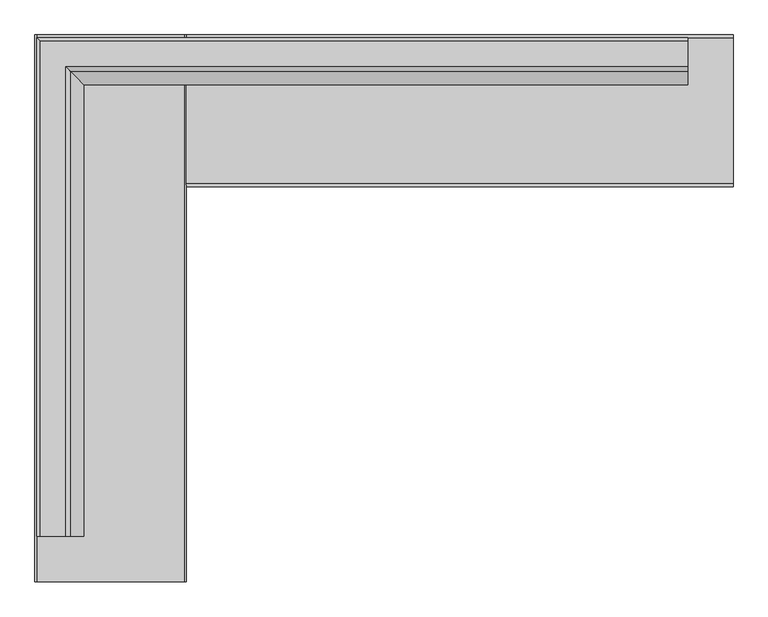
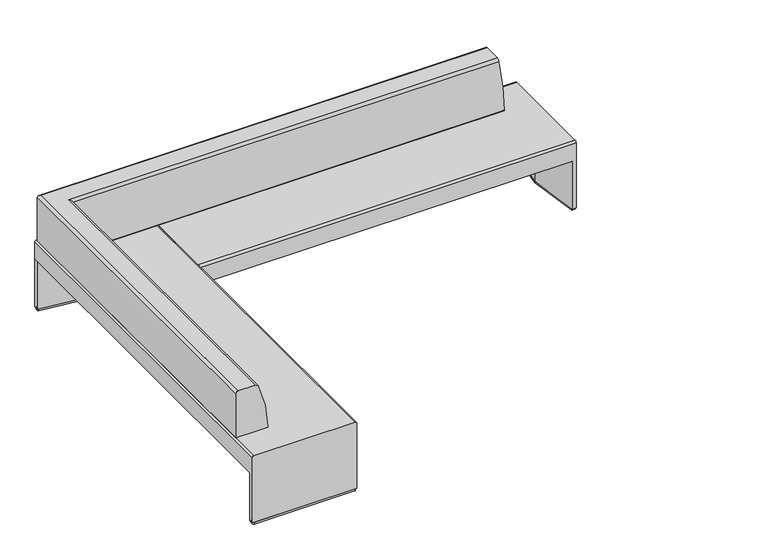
"""IFC4 building model written with IfcOpenShell, lengths in millimetres: furniture geometry, Coalesse_AM_Seating_Bench_Together_LeftCorner : 8in Back Offset - 96.5D x 123.25W."""

from ifc_helpers import new_model, si_unit, point, frame, frame_2d, origin, origin_with_axes, place, context, project, spatial, polyline, circle_curve, ellipse_curve, trimmed, segment, composite_curve, outline, extrude, source, transform, mapped, element, save
from ifc_brep_helpers import plane_surface, cylinder_surface, advanced_brep


def furniture_73e455b3(model_context):
    return source(origin(), model_context, "Body", "SolidModel", [
        extrude(outline(composite_curve([segment(polyline([(2381.1760341, 342.7173042), (2424.8994541, 668.3404046)]), True, "CONTINUOUS"), segment(trimmed(circle_curve(frame_2d((2431.8678665, 667.4047129)), 7.0309522), [point((2424.8994541, 668.3404046))], [point((2431.8621236, 674.4356628))], False, "CARTESIAN"), True, "CONTINUOUS"), segment(polyline([(2431.8621236, 674.4356628), (2444.385141, 674.4458915)]), True, "CONTINUOUS"), segment(trimmed(circle_curve(frame_2d((2444.3903277, 668.0958937)), 6.35), [point((2444.385141, 674.4458915))], [point((2450.7403256, 668.1010803))], False, "CARTESIAN"), True, "CONTINUOUS"), segment(polyline([(2450.7403256, 668.1010803), (2451.2758418, 12.4700002)]), True, "CONTINUOUS"), segment(trimmed(circle_curve(frame_2d((2444.9258439, 12.4648135)), 6.35), [point((2451.2758418, 12.4700002))], [point((2444.9310305, 6.1148157))], False, "CARTESIAN"), True, "CONTINUOUS"), segment(polyline([(2444.9310305, 6.1148157), (2432.4737657, 6.1046406)]), True, "CONTINUOUS"), segment(trimmed(circle_curve(frame_2d((2432.4685791, 12.4546385)), 6.35), [point((2432.4737657, 6.1046406))], [point((2426.1764214, 11.5995062))], False, "CARTESIAN"), True, "CONTINUOUS"), segment(polyline([(2426.1764214, 11.5995062), (2381.1760341, 342.7173042)]), True, "CONTINUOUS")], self_intersect=False)), origin_with_axes(), (0.0, 0.0, 1.0), 12.7976677),
        extrude(outline(composite_curve([segment(polyline([(-342.242834, 610.6565573), (-667.8301127, 654.6459299)]), True, "CONTINUOUS"), segment(trimmed(circle_curve(frame_2d((-666.8887296, 661.6135757)), 7.0309522), [point((-667.8301127, 654.6459299))], [point((-673.9196818, 661.6135757))], False, "CARTESIAN"), True, "CONTINUOUS"), segment(polyline([(-673.9196818, 661.6135757), (-673.9196818, 674.1365973)]), True, "CONTINUOUS"), segment(trimmed(circle_curve(frame_2d((-667.5696818, 674.1365973)), 6.35), [point((-673.9196818, 674.1365973))], [point((-667.5696818, 680.4865973))], False, "CARTESIAN"), True, "CONTINUOUS"), segment(polyline([(-667.5696818, 680.4865973), (-11.938383, 680.4865973)]), True, "CONTINUOUS"), segment(trimmed(circle_curve(frame_2d((-11.938383, 674.1365973)), 6.35), [point((-11.938383, 680.4865973))], [point((-5.588383, 674.1365973))], False, "CARTESIAN"), True, "CONTINUOUS"), segment(polyline([(-5.588383, 674.1365973), (-5.588383, 661.6793283)]), True, "CONTINUOUS"), segment(trimmed(circle_curve(frame_2d((-11.938383, 661.6793283)), 6.35), [point((-5.588383, 661.6793283))], [point((-11.0883904, 655.3864742))], False, "CARTESIAN"), True, "CONTINUOUS"), segment(polyline([(-11.0883904, 655.3864742), (-342.242834, 610.6565573)]), True, "CONTINUOUS")], self_intersect=False)), origin_with_axes(), (0.0, 0.0, 1.0), 12.7976677),
        extrude(outline(composite_curve([segment(polyline([(-342.242834, -1700.1204812), (-11.0883904, -1744.8503981)]), True, "CONTINUOUS"), segment(trimmed(circle_curve(frame_2d((-11.938383, -1751.1432522)), 6.35), [point((-11.0883904, -1744.8503981))], [point((-5.588383, -1751.1432522))], False, "CARTESIAN"), True, "CONTINUOUS"), segment(polyline([(-5.588383, -1751.1432522), (-5.588383, -1763.6005212)]), True, "CONTINUOUS"), segment(trimmed(circle_curve(frame_2d((-11.938383, -1763.6005212)), 6.35), [point((-5.588383, -1763.6005212))], [point((-11.938383, -1769.9505212))], False, "CARTESIAN"), True, "CONTINUOUS"), segment(polyline([(-11.938383, -1769.9505212), (-667.5696818, -1769.9505212)]), True, "CONTINUOUS"), segment(trimmed(circle_curve(frame_2d((-667.5696818, -1763.6005212)), 6.35), [point((-667.5696818, -1769.9505212))], [point((-673.9196818, -1763.6005212))], False, "CARTESIAN"), True, "CONTINUOUS"), segment(polyline([(-673.9196818, -1763.6005212), (-673.9196818, -1751.0774996)]), True, "CONTINUOUS"), segment(trimmed(circle_curve(frame_2d((-666.8887296, -1751.0774996)), 7.0309522), [point((-673.9196818, -1751.0774996))], [point((-667.8301127, -1744.1098538))], False, "CARTESIAN"), True, "CONTINUOUS"), segment(polyline([(-667.8301127, -1744.1098538), (-342.242834, -1700.1204812)]), True, "CONTINUOUS")], self_intersect=False)), origin_with_axes(), (0.0, 0.0, 1.0), 12.7976677),
        advanced_brep(
        [(2451.2283223, 12.7, 471.2287949), (2451.2283223, 0.0, 458.5287949), (2451.2283223, 0.0, 12.7976677), (2451.2283223, 680.4865973, 12.7976677), (2451.2283223, 680.4865973, 458.5287949), (2451.2283223, 667.7865973, 471.2287949), (0.0, 12.7, 471.2287949), (0.0, 667.7865973, 471.2287949), (0.0, 680.4865973, 458.5287949), (0.0, 680.4865973, 343.3718099), (0.0, 0.0, 343.3718099), (0.0, 0.0, 458.5287949), (2425.0526241, 0.0, 343.3718099), (2425.0515424, 0.0, 12.7976677), (2425.3585944, 680.4865973, 343.3718099), (2380.7200419, 337.8527218, 343.3718099), (2425.3596556, 680.4865973, 12.7976677), (2380.7200419, 337.8527218, 12.7976677)],
        [
            (0, 1, circle_curve(frame((2451.2283223, 12.7, 458.5287949), z_axis=(1.0, 0.0, 0.0), x_axis=(0.0, -1.0, 0.0)), 12.7)),
            (1, 2),
            (2, 3),
            (3, 4),
            (4, 5, circle_curve(frame((2451.2283223, 667.7865973, 458.5287949), z_axis=(1.0, 0.0, 0.0), x_axis=(0.0, -1.0, 0.0)), 12.7)),
            (5, 0),
            (6, 7),
            (7, 8, circle_curve(frame((0.0, 667.7865973, 458.5287949), z_axis=(-1.0, 0.0, 0.0), x_axis=(0.0, -1.0, 0.0)), 12.7)),
            (8, 9),
            (9, 10),
            (10, 11),
            (11, 6, circle_curve(frame((0.0, 12.7, 458.5287949), z_axis=(-1.0, 0.0, 0.0), x_axis=(0.0, -1.0, 0.0)), 12.7)),
            (0, 6),
            (11, 1),
            (10, 12),
            (12, 13),
            (13, 2),
            (9, 14),
            (14, 15),
            (15, 12),
            (3, 16),
            (16, 14),
            (8, 4),
            (7, 5),
            (17, 16),
            (13, 17),
            (15, 17),
        ],
        [
            plane_surface(frame((2451.2283223, 0.0, 458.5287949), z_axis=(1.0, 0.0, 0.0), x_axis=(0.0, 0.0, -1.0))),
            plane_surface(frame((0.0, 0.0, 458.5287949), z_axis=(-1.0, 0.0, 0.0), x_axis=(0.0, 0.0, 1.0))),
            cylinder_surface(frame((0.0, 12.7, 458.5287949), z_axis=(1.0, 0.0, 0.0), x_axis=(0.0, -1.0, 0.0)), 12.7),
            plane_surface(frame((2451.2283223, 0.0, 458.5287949), z_axis=(0.0, -1.0, 0.0), x_axis=(-1.0, 0.0, 0.0))),
            plane_surface(frame((2451.2283223, 0.0, 343.3718099), z_axis=(0.0, 0.0, -1.0), x_axis=(-1.0, 0.0, 0.0))),
            plane_surface(frame((2451.2283223, 680.4865973, 343.3718099), z_axis=(0.0, 1.0, 0.0), x_axis=(-1.0, 0.0, 0.0))),
            cylinder_surface(frame((0.0, 667.7865973, 458.5287949), z_axis=(1.0, 0.0, 0.0), x_axis=(0.0, -1.0, 0.0)), 12.7),
            plane_surface(frame((2451.2283223, 667.7865973, 471.2287949), z_axis=(0.0, 0.0, 1.0), x_axis=(-1.0, 0.0, 0.0))),
            plane_surface(frame((2380.7200419, 337.8527218, 12.7976677), z_axis=(0.0, 0.0, -1.0), x_axis=(-0.13010336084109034, 0.9915004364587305, 0.0))),
            plane_surface(frame((2380.7200419, 337.8527218, 343.3718099), z_axis=(-0.9915004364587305, -0.13010336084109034, 0.0), x_axis=(0.0, 0.0, -1.0))),
            plane_surface(frame((2425.3596556, 680.4947435, 343.3718099), z_axis=(-0.9916200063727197, 0.1291888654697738, 0.0), x_axis=(0.0, 0.0, -1.0))),
        ],
        [
            (0, [[1, 2, 3, 4, 5, 6]]),
            (1, [[7, 8, 9, 10, 11, 12]]),
            (2, [[-1, 13, -12, 14]]),
            (3, [[-2, -14, -11, 15, 16, 17]]),
            (4, [[-10, 18, 19, 20, -15]]),
            (5, [[-4, 21, 22, -18, -9, 23]]),
            (6, [[-5, -23, -8, 24]]),
            (7, [[-6, -24, -7, -13]]),
            (8, [[25, -21, -3, -17, 26]]),
            (9, [[-26, -16, -20, 27]]),
            (10, [[-25, -27, -19, -22]]),
        ],
    ),
        advanced_brep(
        [(0.0, -1770.8336068, 462.8584293), (-8.3703656, -1770.8336068, 471.2287949), (-669.1616777, -1770.8336068, 471.2287949), (-679.3216777, -1770.8336068, 461.0687949), (-679.3216777, -1770.8336068, 12.7976677), (0.0, -1770.8336068, 12.7976677), (0.0, 680.2663932, 343.3718099), (-679.3216777, 680.2663932, 343.3718099), (-679.3216777, 680.2663932, 461.0687949), (-669.1616777, 680.2663932, 471.2287949), (-8.3703656, 680.2663932, 471.2287949), (0.0, 680.2663932, 462.8584293), (0.0, -1744.8418934, 12.7976677), (0.0, -1744.8418934, 343.3718099), (-679.3216777, -1744.8418934, 343.3718099), (-679.3216777, -1744.8418934, 12.7976677), (-337.6103648, -1700.4329621, 343.3718099), (-337.6103648, -1700.4329621, 12.7976677)],
        [
            (0, 1, circle_curve(frame((-8.3703656, -1770.8336068, 462.8584293), z_axis=(0.0, -1.0, 0.0), x_axis=(1.0, 0.0, 0.0)), 8.3703656)),
            (1, 2),
            (2, 3, circle_curve(frame((-669.1616777, -1770.8336068, 461.0687949), z_axis=(0.0, -1.0, 0.0), x_axis=(1.0, 0.0, 0.0)), 10.16)),
            (3, 4),
            (4, 5),
            (5, 0),
            (6, 7),
            (7, 8),
            (8, 9, circle_curve(frame((-669.1616777, 680.2663932, 461.0687949), z_axis=(0.0, 1.0, 0.0), x_axis=(1.0, 0.0, 0.0)), 10.16)),
            (9, 10),
            (10, 11, circle_curve(frame((-8.3703656, 680.2663932, 462.8584293), z_axis=(0.0, 1.0, 0.0), x_axis=(1.0, 0.0, 0.0)), 8.3703656)),
            (11, 6),
            (5, 12),
            (12, 13),
            (13, 6),
            (11, 0),
            (10, 1),
            (9, 2),
            (8, 3),
            (7, 14),
            (14, 15),
            (15, 4),
            (13, 16),
            (16, 14),
            (17, 12),
            (15, 17),
            (16, 17),
        ],
        [
            plane_surface(frame((0.0, -1770.8336068, 432.906134), z_axis=(0.0, -1.0, 0.0), x_axis=(0.0, 0.0, 1.0))),
            plane_surface(frame((0.0, 680.2663932, 432.906134), z_axis=(0.0, 1.0, 0.0), x_axis=(0.0, 0.0, -1.0))),
            plane_surface(frame((0.0, -1770.8336068, 343.3718099), z_axis=(1.0, 0.0, 0.0), x_axis=(0.0, 1.0, 0.0))),
            cylinder_surface(frame((-8.3703656, 680.2663932, 462.8584293), z_axis=(0.0, -1.0, 0.0), x_axis=(1.0, 0.0, 0.0)), 8.3703656),
            plane_surface(frame((-8.3703656, -1770.8336068, 471.2287949), z_axis=(0.0, 0.0, 1.0), x_axis=(0.0, 1.0, 0.0))),
            cylinder_surface(frame((-669.1616777, 680.2663932, 461.0687949), z_axis=(0.0, -1.0, 0.0), x_axis=(1.0, 0.0, 0.0)), 10.16),
            plane_surface(frame((-679.3216777, -1770.8336068, 461.0687949), z_axis=(-1.0, 0.0, 0.0), x_axis=(0.0, 1.0, 0.0))),
            plane_surface(frame((-679.3216777, -1770.8336068, 343.3718099), z_axis=(0.0, 0.0, -1.0), x_axis=(0.0, 1.0, 0.0))),
            plane_surface(frame((-679.3216777, -1744.8418934, 12.7976677), z_axis=(0.0, 0.0, -1.0), x_axis=(0.9916606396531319, 0.12887659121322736, 0.0))),
            plane_surface(frame((-337.6103648, -1700.4329621, 343.3718099), z_axis=(-0.12887659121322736, 0.9916606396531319, 0.0), x_axis=(0.0, 0.0, -1.0))),
            plane_surface(frame((0.0, -1744.8418934, 343.3718099), z_axis=(0.13041558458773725, 0.9914594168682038, 0.0), x_axis=(0.0, 0.0, -1.0))),
        ],
        [
            (0, [[1, 2, 3, 4, 5, 6]]),
            (1, [[7, 8, 9, 10, 11, 12]]),
            (2, [[-6, 13, 14, 15, -12, 16]]),
            (3, [[-1, -16, -11, 17]]),
            (4, [[-2, -17, -10, 18]]),
            (5, [[-3, -18, -9, 19]]),
            (6, [[-4, -19, -8, 20, 21, 22]]),
            (7, [[-7, -15, 23, 24, -20]]),
            (8, [[25, -13, -5, -22, 26]]),
            (9, [[-26, -21, -24, 27]]),
            (10, [[-25, -27, -23, -14]]),
        ],
    ),
        extrude(outline(polyline([(-337.6103648, 610.0859526), (-679.4232219, 654.5080806), (-679.4232219, 680.4865973), (0.0, 680.4865973), (0.0, 654.4948838), (-337.6103648, 610.0859526)])), frame((0.0, 0.0, 12.7976677), z_axis=(0.0, 0.0, 1.0), x_axis=(1.0, 0.0, 0.0)), (0.0, 0.0, 1.0), 330.5741422),
        advanced_brep(
        [(-542.7579952, -1567.6336068, 789.6908243), (-654.9720681, -1567.6336068, 789.6908243), (-670.6127132, -1567.6336068, 774.0501793), (-670.6127132, -1567.6336068, 471.9907949), (-669.8507132, -1567.6336068, 471.2287949), (-467.2326916, -1567.6336068, 471.2287949), (-460.8827115, -1567.6336068, 477.5628851), (-521.8690853, -1567.6336068, 775.9296487), (-542.7579952, 539.2094278, 789.6908243), (2248.0283223, 539.2094278, 789.6908243), (2248.0283223, 651.4235007, 789.6908243), (-654.9720681, 651.4235007, 789.6908243), (-670.6127132, 667.0641458, 774.0501793), (-670.6127132, 667.0641458, 471.9907949), (-669.8507132, 666.3021458, 471.2287949), (2248.0283223, 666.3021458, 471.2287949), (2248.0283223, 463.6841242, 471.2287949), (-467.2326916, 463.6841242, 471.2287949), (-460.8827115, 457.3341441, 477.5628851), (-521.8690853, 518.3205179, 775.9296487), (2248.0283223, 518.3205179, 775.9296487), (2248.0283223, 457.3341441, 477.5628851), (2248.0283223, 667.0641458, 471.9907949), (2248.0283223, 667.0641458, 774.0501793)],
        [
            (0, 1),
            (1, 2, circle_curve(frame((-654.9720681, -1567.6336068, 774.0501793), z_axis=(0.0, -1.0, 0.0), x_axis=(-1.0, 0.0, 0.0)), 15.6406451)),
            (2, 3),
            (3, 4, circle_curve(frame((-669.8507132, -1567.6336068, 471.9907949), z_axis=(0.0, -1.0, 0.0), x_axis=(-1.0, 0.0, 0.0)), 0.762)),
            (4, 5),
            (5, 6, circle_curve(frame((-467.2326916, -1567.6336068, 477.5787949), z_axis=(0.0, -1.0, 0.0), x_axis=(-1.0, 0.0, 0.0)), 6.35)),
            (6, 7, circle_curve(frame((-1212.0260917, -1567.6336068, 479.4448666), z_axis=(0.0, -1.0, 0.0), x_axis=(-1.0, 0.0, 0.0)), 751.1457378)),
            (7, 0, circle_curve(frame((-542.7579952, -1567.6336068, 766.9559749), z_axis=(0.0, -1.0, 0.0), x_axis=(-1.0, 0.0, 0.0)), 22.7348495)),
            (0, 8),
            (8, 9),
            (9, 10),
            (10, 11),
            (11, 1),
            (11, 12, ellipse_curve(frame((-654.9720681, 651.4235007, 774.0501793), z_axis=(-0.7071067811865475, -0.7071067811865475, 0.0), x_axis=(0.7071067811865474, -0.7071067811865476, 0.0)), 22.1192124, 15.6406451)),
            (12, 2),
            (12, 13),
            (13, 3),
            (13, 14, ellipse_curve(frame((-669.8507132, 666.3021458, 471.9907949), z_axis=(-0.7071067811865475, -0.7071067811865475, 0.0), x_axis=(0.7071067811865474, -0.7071067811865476, 0.0)), 1.0776307, 0.762)),
            (14, 4),
            (14, 15),
            (15, 16),
            (16, 17),
            (17, 5),
            (17, 18, ellipse_curve(frame((-467.2326916, 463.6841242, 477.5787949), z_axis=(-0.7071067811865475, -0.7071067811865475, 0.0), x_axis=(0.7071067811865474, -0.7071067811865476, 0.0)), 8.9802561, 6.35)),
            (18, 6),
            (18, 19, ellipse_curve(frame((-1212.0260917, 1208.4775243, 479.4448666), z_axis=(-0.7071067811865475, -0.7071067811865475, 0.0), x_axis=(0.7071067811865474, -0.7071067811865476, 0.0)), 1062.2804897, 751.1457378)),
            (19, 7),
            (19, 8, ellipse_curve(frame((-542.7579952, 539.2094278, 766.9559749), z_axis=(-0.7071067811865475, -0.7071067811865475, 0.0), x_axis=(0.7071067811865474, -0.7071067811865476, 0.0)), 32.1519324, 22.7348495)),
            (9, 20, circle_curve(frame((2248.0283223, 539.2094278, 766.9559749), z_axis=(1.0, 0.0, 0.0), x_axis=(0.0, 1.0, 0.0)), 22.7348495)),
            (20, 21, circle_curve(frame((2248.0283223, 1208.4775243, 479.4448666), z_axis=(1.0, 0.0, 0.0), x_axis=(0.0, 1.0, 0.0)), 751.1457378)),
            (21, 16, circle_curve(frame((2248.0283223, 463.6841242, 477.5787949), z_axis=(1.0, 0.0, 0.0), x_axis=(0.0, 1.0, 0.0)), 6.35)),
            (15, 22, circle_curve(frame((2248.0283223, 666.3021458, 471.9907949), z_axis=(1.0, 0.0, 0.0), x_axis=(0.0, 1.0, 0.0)), 0.762)),
            (22, 23),
            (23, 10, circle_curve(frame((2248.0283223, 651.4235007, 774.0501793), z_axis=(1.0, 0.0, 0.0), x_axis=(0.0, 1.0, 0.0)), 15.6406451)),
            (23, 12),
            (22, 13),
            (21, 18),
            (20, 19),
        ],
        [
            plane_surface(frame((-460.0482755, -1567.6336068, 0.0), z_axis=(0.0, -1.0, 0.0), x_axis=(0.0, 0.0, 1.0))),
            plane_surface(frame((-542.7579952, -1567.6336068, 789.6908243), z_axis=(0.0, 0.0, 1.0), x_axis=(0.0, 1.0, 0.0))),
            cylinder_surface(frame((-654.9720681, -1567.6336068, 774.0501793), z_axis=(0.0, -1.0, 0.0), x_axis=(-1.0, 0.0, 0.0)), 15.6406451),
            plane_surface(frame((-670.6127132, -1567.6336068, 774.0501793), z_axis=(-1.0, 0.0, 0.0), x_axis=(0.0, 1.0, 0.0))),
            cylinder_surface(frame((-669.8507132, -1567.6336068, 471.9907949), z_axis=(0.0, -1.0, 0.0), x_axis=(-1.0, 0.0, 0.0)), 0.762),
            plane_surface(frame((-669.8507132, -1567.6336068, 471.2287949), z_axis=(0.0, 0.0, -1.0), x_axis=(0.0, 1.0, 0.0))),
            cylinder_surface(frame((-467.2326916, -1567.6336068, 477.5787949), z_axis=(0.0, -1.0, 0.0), x_axis=(-1.0, 0.0, 0.0)), 6.35),
            cylinder_surface(frame((-1212.0260917, -1567.6336068, 479.4448666), z_axis=(0.0, -1.0, 0.0), x_axis=(-1.0, 0.0, 0.0)), 751.1457378),
            cylinder_surface(frame((-542.7579952, -1567.6336068, 766.9559749), z_axis=(0.0, -1.0, 0.0), x_axis=(-1.0, 0.0, 0.0)), 22.7348495),
            plane_surface(frame((2248.0283223, 456.4997081, 0.0), z_axis=(1.0, 0.0, 0.0), x_axis=(0.0, 0.0, 1.0))),
            cylinder_surface(frame((-460.0482755, 651.4235007, 774.0501793), z_axis=(-1.0, 0.0, 0.0), x_axis=(0.0, 1.0, 0.0)), 15.6406451),
            plane_surface(frame((-670.6127132, 667.0641458, 774.0501793), z_axis=(0.0, 1.0, 0.0), x_axis=(1.0, 0.0, 0.0))),
            cylinder_surface(frame((-460.0482755, 666.3021458, 471.9907949), z_axis=(-1.0, 0.0, 0.0), x_axis=(0.0, 1.0, 0.0)), 0.762),
            cylinder_surface(frame((-460.0482755, 463.6841242, 477.5787949), z_axis=(-1.0, 0.0, 0.0), x_axis=(0.0, 1.0, 0.0)), 6.35),
            cylinder_surface(frame((-460.0482755, 1208.4775243, 479.4448666), z_axis=(-1.0, 0.0, 0.0), x_axis=(0.0, 1.0, 0.0)), 751.1457378),
            cylinder_surface(frame((-460.0482755, 539.2094278, 766.9559749), z_axis=(-1.0, 0.0, 0.0), x_axis=(0.0, 1.0, 0.0)), 22.7348495),
        ],
        [
            (0, [[1, 2, 3, 4, 5, 6, 7, 8]]),
            (1, [[-1, 9, 10, 11, 12, 13]]),
            (2, [[-2, -13, 14, 15]]),
            (3, [[-3, -15, 16, 17]]),
            (4, [[-4, -17, 18, 19]]),
            (5, [[-5, -19, 20, 21, 22, 23]]),
            (6, [[-6, -23, 24, 25]]),
            (7, [[-7, -25, 26, 27]]),
            (8, [[-8, -27, 28, -9]]),
            (9, [[29, 30, 31, -21, 32, 33, 34, -11]]),
            (10, [[-14, -12, -34, 35]]),
            (11, [[-16, -35, -33, 36]]),
            (12, [[-18, -36, -32, -20]]),
            (13, [[-24, -22, -31, 37]]),
            (14, [[-26, -37, -30, 38]]),
            (15, [[-28, -38, -29, -10]]),
        ],
    ),
    ])


if __name__ == "__main__":
    model = new_model("IFC4")
    model_context = context("Model", 3, world=origin())
    ifc_project = project(units=[si_unit("LENGTHUNIT", "METRE", prefix="MILLI")], contexts=[model_context])
    site = spatial("IfcSite", under=ifc_project)
    building = spatial("IfcBuilding", under=site)
    placement = place(None, origin())
    furniture_shape = furniture_73e455b3(model_context)
    element("IfcFurniture", 1, ObjectType="Coalesse_AM_Seating_Bench_Together_LeftCorner : 8in Back Offset - 96.5D x 123.25W", at=placement, inside=building, context=model_context, shape_type="MappedRepresentation", body=[
        mapped(furniture_shape, transform((0.0, 0.0, 0.0), x_axis=(1.0, 0.0, 0.0), y_axis=(0.0, 1.0, 0.0), z_axis=(0.0, 0.0, 1.0))),
    ])
    save(model, "model.ifc")
